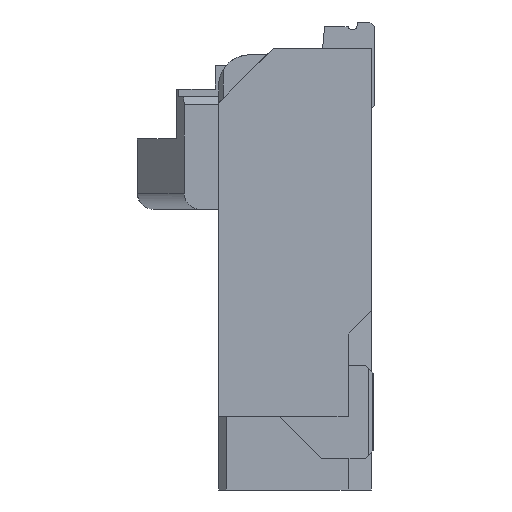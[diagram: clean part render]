
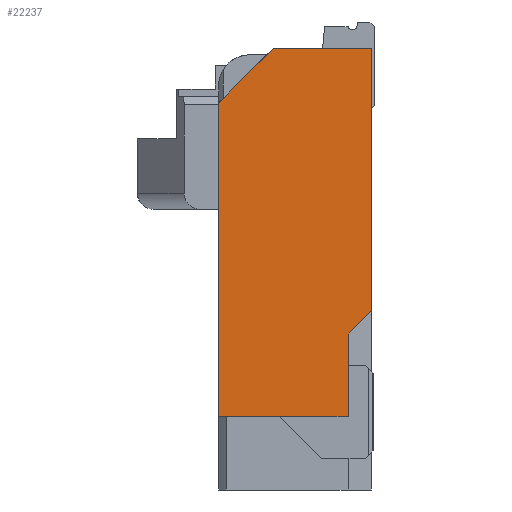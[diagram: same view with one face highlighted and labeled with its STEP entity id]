
A CAD part, left-side view. The second image highlights one B-rep face of the part: STEP entity #22237.
In plain terms, the highlighted planar face has unit normal (-1, 0, 0).
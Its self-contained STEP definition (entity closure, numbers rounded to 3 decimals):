
#1886 = VECTOR ( 'NONE', #2374, 1000. ) ;
#2374 = DIRECTION ( 'NONE',  ( 0., 0., -1. ) ) ;
#2375 = CARTESIAN_POINT ( 'NONE',  ( -8.35, 0.02, -0.17 ) ) ;
#2377 = LINE ( 'NONE', #2375, #1886 ) ;
#3130 = DIRECTION ( 'NONE',  ( 0., 0., 1. ) ) ;
#3264 = LINE ( 'NONE', #3346, #7309 ) ;
#3346 = CARTESIAN_POINT ( 'NONE',  ( -8.35, 1., -1.2 ) ) ;
#6061 = ORIENTED_EDGE ( 'NONE', *, *, #13038, .F. ) ;
#6204 = ORIENTED_EDGE ( 'NONE', *, *, #22015, .T. ) ;
#6798 = CARTESIAN_POINT ( 'NONE',  ( -8.35, 0.65, -0.17 ) ) ;
#6865 = CARTESIAN_POINT ( 'NONE',  ( -8.35, 0.17, -2. ) ) ;
#6866 = CARTESIAN_POINT ( 'NONE',  ( -8.35, 0.17, -2.53 ) ) ;
#7309 = VECTOR ( 'NONE', #3130, 1000. ) ;
#9969 = VERTEX_POINT ( 'NONE', #6866 ) ;
#9970 = VERTEX_POINT ( 'NONE', #6865 ) ;
#10122 = VERTEX_POINT ( 'NONE', #6798 ) ;
#11008 = EDGE_LOOP ( 'NONE', ( #19385, #19182, #19417, #19281, #6061, #19214, #6204 ) ) ;
#11337 = CARTESIAN_POINT ( 'NONE',  ( -8.35, 0.53, -3. ) ) ;
#11345 = FACE_OUTER_BOUND ( 'NONE', #11008, .T. ) ;
#11346 = PLANE ( 'NONE',  #12509 ) ;
#11348 = DIRECTION ( 'NONE',  ( 1., 0., 0. ) ) ;
#11349 = DIRECTION ( 'NONE',  ( 0., 0., 1. ) ) ;
#12087 = CARTESIAN_POINT ( 'NONE',  ( -8.35, 1., -0.52 ) ) ;
#12100 = CARTESIAN_POINT ( 'NONE',  ( -8.35, 1., -2.53 ) ) ;
#12509 = AXIS2_PLACEMENT_3D ( 'NONE', #11337, #11348, #11349 ) ;
#12803 = VECTOR ( 'NONE', #20888, 1000. ) ;
#12805 = VECTOR ( 'NONE', #20881, 1000. ) ;
#12817 = VECTOR ( 'NONE', #20840, 1000. ) ;
#12835 = VECTOR ( 'NONE', #20777, 1000. ) ;
#12839 = VECTOR ( 'NONE', #20770, 1000. ) ;
#13038 = EDGE_CURVE ( 'NONE', #22702, #22622, #3264, .T. ) ;
#13348 = EDGE_CURVE ( 'NONE', #20909, #20902, #2377, .T. ) ;
#17500 = CARTESIAN_POINT ( 'NONE',  ( -8.35, 0.02, -1.85 ) ) ;
#17508 = CARTESIAN_POINT ( 'NONE',  ( -8.35, 0.02, -0.17 ) ) ;
#19182 = ORIENTED_EDGE ( 'NONE', *, *, #13348, .F. ) ;
#19214 = ORIENTED_EDGE ( 'NONE', *, *, #22021, .F. ) ;
#19281 = ORIENTED_EDGE ( 'NONE', *, *, #22022, .F. ) ;
#19385 = ORIENTED_EDGE ( 'NONE', *, *, #22005, .F. ) ;
#19417 = ORIENTED_EDGE ( 'NONE', *, *, #22006, .F. ) ;
#20749 = LINE ( 'NONE', #20751, #12839 ) ;
#20751 = CARTESIAN_POINT ( 'NONE',  ( -8.35, 0.17, -2. ) ) ;
#20770 = DIRECTION ( 'NONE',  ( 0., 0.707, -0.707 ) ) ;
#20772 = LINE ( 'NONE', #20775, #12835 ) ;
#20775 = CARTESIAN_POINT ( 'NONE',  ( -8.35, 0.02, -0.17 ) ) ;
#20777 = DIRECTION ( 'NONE',  ( 0., -1., 0. ) ) ;
#20835 = LINE ( 'NONE', #20838, #12817 ) ;
#20838 = CARTESIAN_POINT ( 'NONE',  ( -8.35, 0.17, -3. ) ) ;
#20840 = DIRECTION ( 'NONE',  ( 0., 0., 1. ) ) ;
#20876 = LINE ( 'NONE', #20879, #12805 ) ;
#20879 = CARTESIAN_POINT ( 'NONE',  ( -8.35, 0.17, -2.53 ) ) ;
#20881 = DIRECTION ( 'NONE',  ( 0., 1., 0. ) ) ;
#20883 = LINE ( 'NONE', #20886, #12803 ) ;
#20886 = CARTESIAN_POINT ( 'NONE',  ( -8.35, 1., -0.52 ) ) ;
#20888 = DIRECTION ( 'NONE',  ( 0., -0.707, 0.707 ) ) ;
#20902 = VERTEX_POINT ( 'NONE', #17500 ) ;
#20909 = VERTEX_POINT ( 'NONE', #17508 ) ;
#22005 = EDGE_CURVE ( 'NONE', #20902, #9970, #20749, .T. ) ;
#22006 = EDGE_CURVE ( 'NONE', #10122, #20909, #20772, .T. ) ;
#22015 = EDGE_CURVE ( 'NONE', #9969, #9970, #20835, .T. ) ;
#22021 = EDGE_CURVE ( 'NONE', #9969, #22702, #20876, .T. ) ;
#22022 = EDGE_CURVE ( 'NONE', #22622, #10122, #20883, .T. ) ;
#22237 = ADVANCED_FACE ( 'NONE', ( #11345 ), #11346, .F. ) ;
#22622 = VERTEX_POINT ( 'NONE', #12087 ) ;
#22702 = VERTEX_POINT ( 'NONE', #12100 ) ;
